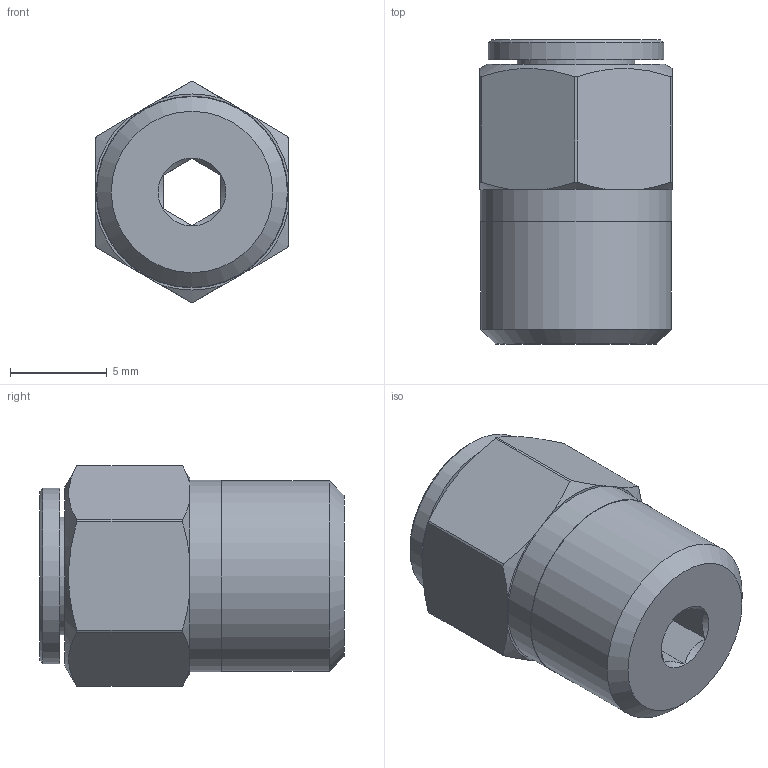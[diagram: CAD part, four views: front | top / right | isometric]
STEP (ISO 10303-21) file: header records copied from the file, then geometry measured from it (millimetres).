
FILE_DESCRIPTION(/* description */ (''),/* implementation_level */ '2;1');
FILE_NAME(/* name */ 'C:/Users/drich/Desktop/CO-4-01MOF v1.step',/* time_stamp */ '2020-02-10T19:57:45-06:00',/* author */ (''),/* organization */ (''),/* preprocessor_version */ 'ST-DEVELOPER v18',/* originating_system */ 'Autodesk Translation Framework v8.12.0.6',/* authorisation */ '');
FILE_SCHEMA (('AUTOMOTIVE_DESIGN { 1 0 10303 214 3 1 1 }'));
Length unit declared in the file: inch
Products named in the file (1): CO-4-01MOF
Bounding box: 9.96 x 15.75 x 11.43 mm (x, y, z)
Volume: 1016.1 mm3; surface area: 1144.4 mm2
Topology: 2 solids, 2 shells, 43 faces, 119 edges, 84 vertices
Faces by surface type: plane 20, cylinder 12, cone 11
Full cylindrical faces by diameter (mm): 4.318 x1, 6.096 x1, 6.706 x1, 9.093 x1, 9.881 x1, 9.931 x1
Entity records: 1439 total; most frequent: CARTESIAN_POINT 307, ORIENTED_EDGE 238, DIRECTION 225, EDGE_CURVE 119, AXIS2_PLACEMENT_3D 92, VERTEX_POINT 84, EDGE_LOOP 51, CIRCLE 48
